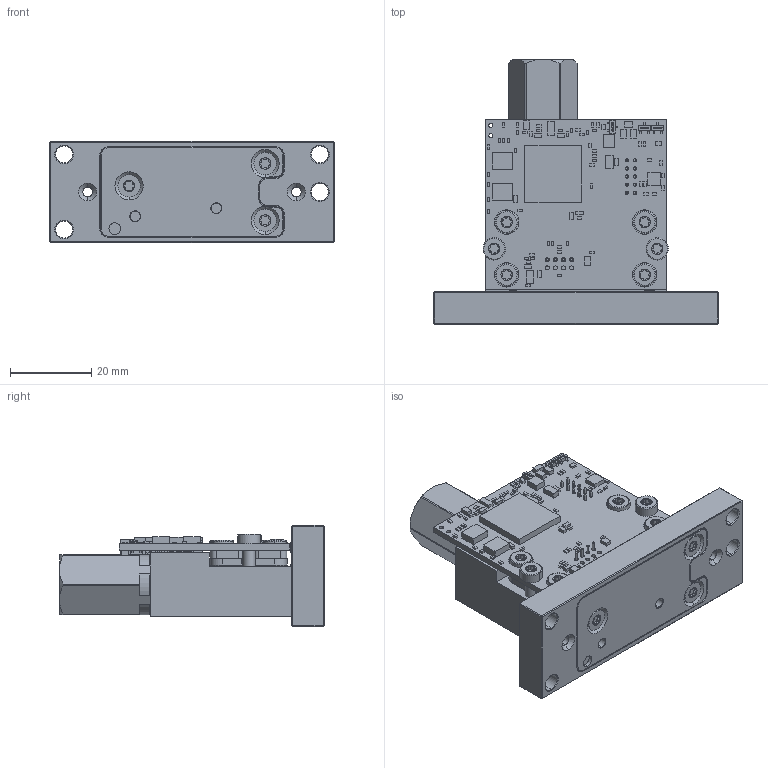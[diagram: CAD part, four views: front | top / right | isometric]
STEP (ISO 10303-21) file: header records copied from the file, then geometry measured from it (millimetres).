
FILE_DESCRIPTION (( 'STEP AP203' ), '1' );
FILE_NAME ('126627-_Publikationsmodell Breithorn Bristen lang.step', '2017-08-07T06:58:15', ( 'IT' ), ( '' ), 'SwSTEP 2.0', 'SolidWorks 2015', '' );
FILE_SCHEMA (( 'CONFIG_CONTROL_DESIGN' ));
Products named in the file (1): 126627-_Publikationsmodell Breithorn Bristen lang
Bounding box: 70 x 65.15 x 25 mm (x, y, z)
Volume: 40818.2 mm3; surface area: 26991.2 mm2
Topology: 126 solids, 126 shells, 2653 faces, 6561 edges, 4232 vertices
Faces by surface type: plane 1665, cylinder 494, bspline 282, cone 196, torus 16
Entity records: 79349 total; most frequent: CARTESIAN_POINT 17911, ORIENTED_EDGE 13082, DIRECTION 11574, EDGE_CURVE 6541, LINE 4692, VECTOR 4692, VERTEX_POINT 4232, AXIS2_PLACEMENT_3D 3441
